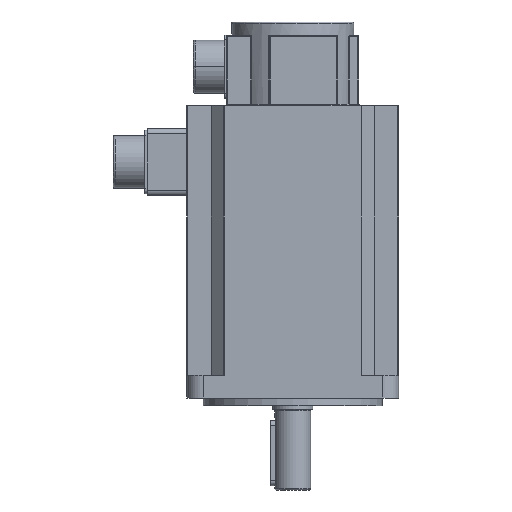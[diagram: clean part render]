
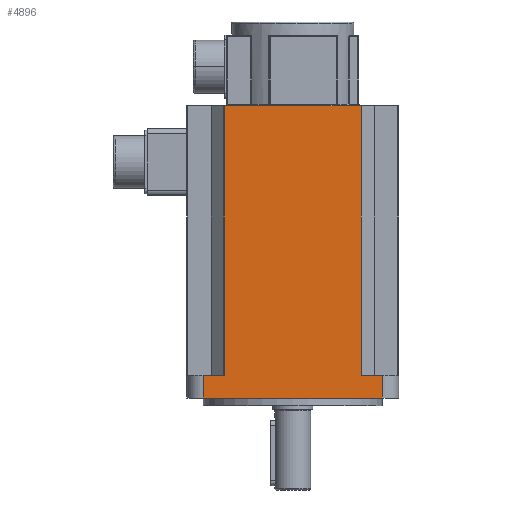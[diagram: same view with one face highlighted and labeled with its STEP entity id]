
A CAD part, front view. The second image highlights one B-rep face of the part: STEP entity #4896.
In plain terms, the highlighted planar face has unit normal (0, -1, 0).
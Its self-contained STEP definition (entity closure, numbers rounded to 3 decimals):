
#1078 = CARTESIAN_POINT ( 'NONE',  ( 55., -65., 18.8 ) ) ;
#1114 = DIRECTION ( 'NONE',  ( -1., 0., 0. ) ) ;
#1116 = CARTESIAN_POINT ( 'NONE',  ( -42.5, -65., 184.3 ) ) ;
#1117 = DIRECTION ( 'NONE',  ( 0., 0., 1. ) ) ;
#1118 = CARTESIAN_POINT ( 'NONE',  ( 42., -65., 18.8 ) ) ;
#1120 = DIRECTION ( 'NONE',  ( 1., 0., 0. ) ) ;
#1121 = CARTESIAN_POINT ( 'NONE',  ( -42., -65., 184.3 ) ) ;
#1124 = CARTESIAN_POINT ( 'NONE',  ( -55., -65., 4.8 ) ) ;
#1126 = CARTESIAN_POINT ( 'NONE',  ( 42., -65., 18.8 ) ) ;
#1127 = DIRECTION ( 'NONE',  ( 0., 0., -1. ) ) ;
#1129 = DIRECTION ( 'NONE',  ( 1., 0., 0. ) ) ;
#1130 = DIRECTION ( 'NONE',  ( 0., 0., -1. ) ) ;
#1132 = CARTESIAN_POINT ( 'NONE',  ( -42., -65., 18.8 ) ) ;
#1139 = CARTESIAN_POINT ( 'NONE',  ( 55., -65., 18.8 ) ) ;
#1142 = CARTESIAN_POINT ( 'NONE',  ( -55., -65., 18.8 ) ) ;
#1143 = CARTESIAN_POINT ( 'NONE',  ( -55., -65., 18.8 ) ) ;
#1146 = CARTESIAN_POINT ( 'NONE',  ( 55., -65., 4.8 ) ) ;
#1152 = CARTESIAN_POINT ( 'NONE',  ( -55., -65., 18.8 ) ) ;
#1155 = CARTESIAN_POINT ( 'NONE',  ( -42., -65., 18.8 ) ) ;
#1158 = DIRECTION ( 'NONE',  ( 0., 0., -1. ) ) ;
#1167 = CARTESIAN_POINT ( 'NONE',  ( -55., -65., 4.8 ) ) ;
#1416 = CARTESIAN_POINT ( 'NONE',  ( 42., -65., 184.3 ) ) ;
#1469 = CARTESIAN_POINT ( 'NONE',  ( -55., -65., 18.8 ) ) ;
#1475 = DIRECTION ( 'NONE',  ( 1., 0., 0. ) ) ;
#2547 = VERTEX_POINT ( 'NONE', #1152 ) ;
#2548 = VERTEX_POINT ( 'NONE', #1155 ) ;
#2549 = VERTEX_POINT ( 'NONE', #1146 ) ;
#2552 = VERTEX_POINT ( 'NONE', #1416 ) ;
#2553 = VERTEX_POINT ( 'NONE', #1167 ) ;
#2566 = VERTEX_POINT ( 'NONE', #1121 ) ;
#2606 = VERTEX_POINT ( 'NONE', #1126 ) ;
#2608 = VERTEX_POINT ( 'NONE', #1078 ) ;
#2669 = FACE_OUTER_BOUND ( 'NONE', #5353, .T. ) ;
#3516 = VECTOR ( 'NONE', #1114, 1000. ) ;
#3518 = VECTOR ( 'NONE', #1117, 1000. ) ;
#3519 = LINE ( 'NONE', #1116, #3516 ) ;
#3520 = VECTOR ( 'NONE', #1120, 1000. ) ;
#3521 = LINE ( 'NONE', #1118, #3518 ) ;
#3522 = VECTOR ( 'NONE', #1127, 1000. ) ;
#3523 = LINE ( 'NONE', #1124, #3520 ) ;
#3524 = VECTOR ( 'NONE', #1129, 1000. ) ;
#3526 = VECTOR ( 'NONE', #1130, 1000. ) ;
#3527 = LINE ( 'NONE', #1142, #3522 ) ;
#3528 = VECTOR ( 'NONE', #1158, 1000. ) ;
#3529 = LINE ( 'NONE', #1132, #3526 ) ;
#3530 = LINE ( 'NONE', #1143, #3524 ) ;
#3540 = LINE ( 'NONE', #1139, #3528 ) ;
#3662 = VECTOR ( 'NONE', #1475, 1000. ) ;
#3665 = LINE ( 'NONE', #1469, #3662 ) ;
#3753 = EDGE_CURVE ( 'NONE', #2606, #2608, #3665, .T. ) ;
#3872 = AXIS2_PLACEMENT_3D ( 'NONE', #6237, #6227, #6226 ) ;
#3942 = EDGE_CURVE ( 'NONE', #2608, #2549, #3540, .T. ) ;
#3943 = EDGE_CURVE ( 'NONE', #2566, #2548, #3529, .T. ) ;
#3944 = EDGE_CURVE ( 'NONE', #2547, #2548, #3530, .T. ) ;
#3945 = EDGE_CURVE ( 'NONE', #2547, #2553, #3527, .T. ) ;
#3946 = EDGE_CURVE ( 'NONE', #2553, #2549, #3523, .T. ) ;
#3947 = EDGE_CURVE ( 'NONE', #2606, #2552, #3521, .T. ) ;
#3948 = EDGE_CURVE ( 'NONE', #2552, #2566, #3519, .T. ) ;
#4896 = ADVANCED_FACE ( 'NONE', ( #2669 ), #6229, .F. ) ;
#5353 = EDGE_LOOP ( 'NONE', ( #5545, #5546, #5547, #5548, #5549, #5550, #5551, #5552 ) ) ;
#5545 = ORIENTED_EDGE ( 'NONE', *, *, #3943, .T. ) ;
#5546 = ORIENTED_EDGE ( 'NONE', *, *, #3944, .F. ) ;
#5547 = ORIENTED_EDGE ( 'NONE', *, *, #3945, .T. ) ;
#5548 = ORIENTED_EDGE ( 'NONE', *, *, #3946, .T. ) ;
#5549 = ORIENTED_EDGE ( 'NONE', *, *, #3942, .F. ) ;
#5550 = ORIENTED_EDGE ( 'NONE', *, *, #3753, .F. ) ;
#5551 = ORIENTED_EDGE ( 'NONE', *, *, #3947, .T. ) ;
#5552 = ORIENTED_EDGE ( 'NONE', *, *, #3948, .T. ) ;
#6226 = DIRECTION ( 'NONE',  ( 0., 0., 1. ) ) ;
#6227 = DIRECTION ( 'NONE',  ( 0., 1., 0. ) ) ;
#6229 = PLANE ( 'NONE',  #3872 ) ;
#6237 = CARTESIAN_POINT ( 'NONE',  ( -55., -65., 18.8 ) ) ;
